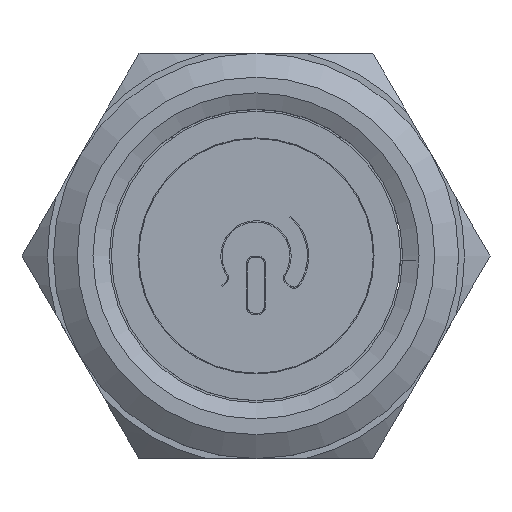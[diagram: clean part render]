
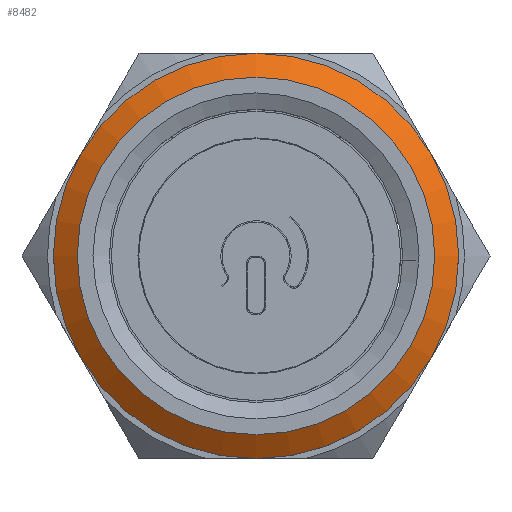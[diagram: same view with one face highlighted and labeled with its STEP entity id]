
A CAD part, top view. The second image highlights one B-rep face of the part: STEP entity #8482.
In plain terms, the highlighted conical face has half-angle 55.603 degrees and reference radius 10.939 mm.
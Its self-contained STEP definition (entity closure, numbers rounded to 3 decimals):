
#841=CONICAL_SURFACE('',#33586,10.939,55.603);
#1642=CIRCLE('',#33576,10.939);
#1643=CIRCLE('',#33578,12.4);
#6290=FACE_BOUND('',#11339,.T.);
#6291=FACE_BOUND('',#11340,.T.);
#8482=ADVANCED_FACE('',(#6290,#6291),#841,.T.);
#11339=EDGE_LOOP('',(#24242));
#11340=EDGE_LOOP('',(#24243));
#24242=ORIENTED_EDGE('',*,*,#31088,.F.);
#24243=ORIENTED_EDGE('',*,*,#31087,.F.);
#27343=VERTEX_POINT('',#52631);
#27344=VERTEX_POINT('',#52634);
#31087=EDGE_CURVE('',#27343,#27343,#1642,.T.);
#31088=EDGE_CURVE('',#27344,#27344,#1643,.T.);
#33576=AXIS2_PLACEMENT_3D('',#52630,#39939,#39940);
#33578=AXIS2_PLACEMENT_3D('',#52633,#39943,#39944);
#33586=AXIS2_PLACEMENT_3D('',#53660,#39959,#39960);
#39939=DIRECTION('',(0.,0.,1.));
#39940=DIRECTION('',(1.,0.,0.));
#39943=DIRECTION('',(0.,0.,-1.));
#39944=DIRECTION('',(1.,0.,0.));
#39959=DIRECTION('',(0.,0.,-1.));
#39960=DIRECTION('',(-1.,0.,0.));
#52630=CARTESIAN_POINT('',(-327.901,189.658,15.35));
#52631=CARTESIAN_POINT('',(-316.962,189.658,15.35));
#52633=CARTESIAN_POINT('',(-327.901,189.658,14.35));
#52634=CARTESIAN_POINT('',(-315.501,189.658,14.35));
#53660=CARTESIAN_POINT('',(-327.901,189.658,15.35));
